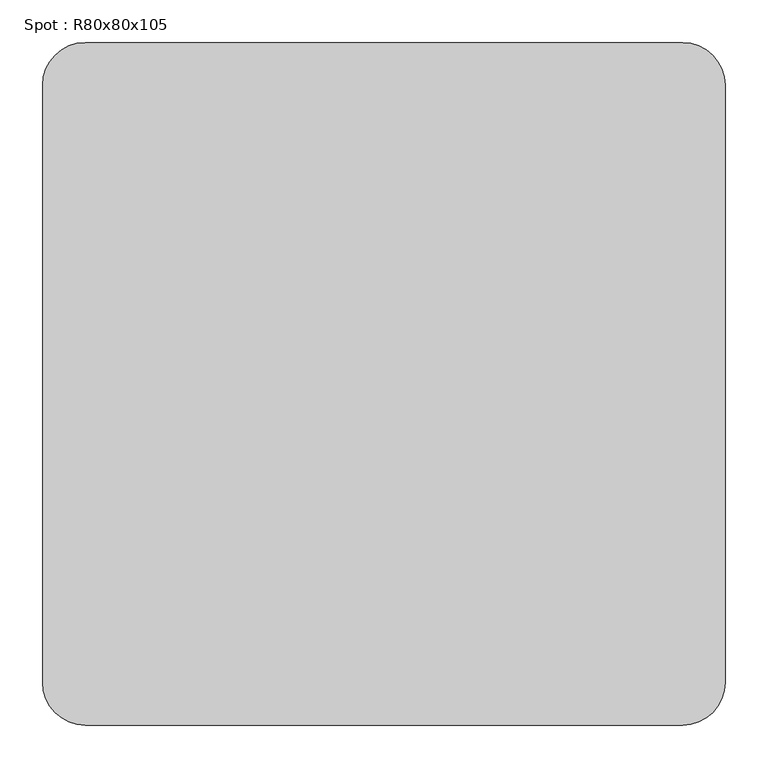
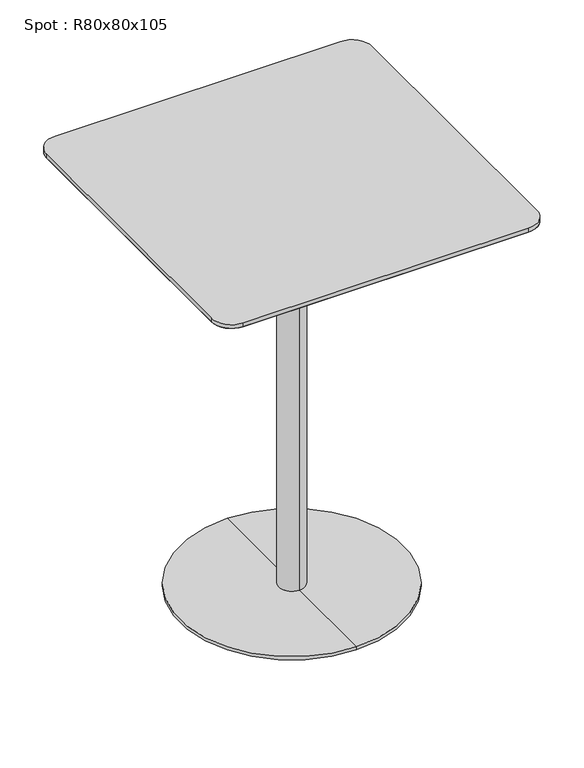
"""IFC4 building model written with IfcOpenShell, lengths in millimetres: furniture geometry, Spot : R80x80x105."""

from ifc_helpers import new_model, si_unit, point, frame, frame_2d, origin, place, context, project, spatial, polyline, circle_curve, trimmed, segment, composite_curve, outline, extrude, source, transform, mapped, element, save
from ifc_brep_helpers import plane_surface, cylinder_surface, revolved_surface, advanced_brep


def spot_r80x80x105_da313f87(model_context):
    return source(origin(), model_context, "Body", "SolidModel", [
        advanced_brep(
        [(-350.0, -350.0, 1028.0), (-350.0, 350.0, 1028.0), (350.0, 350.0, 1028.0), (350.0, -350.0, 1028.0), (-400.0, -350.0, 1040.0), (-350.0, -400.0, 1040.0), (350.0, -400.0, 1040.0), (400.0, -350.0, 1040.0), (400.0, 350.0, 1040.0), (350.0, 400.0, 1040.0), (-350.0, 400.0, 1040.0), (-400.0, 350.0, 1040.0)],
        [
            (0, 1),
            (1, 2),
            (2, 3),
            (3, 0),
            (4, 5, circle_curve(frame((-350.0, -350.0, 1040.0), z_axis=(0.0, 0.0, 1.0), x_axis=(0.0, -1.0, 0.0)), 50.0)),
            (5, 6),
            (6, 7, circle_curve(frame((350.0, -350.0, 1040.0), z_axis=(0.0, 0.0, 1.0), x_axis=(1.0, 0.0, 0.0)), 50.0)),
            (7, 8),
            (8, 9, circle_curve(frame((350.0, 350.0, 1040.0), z_axis=(0.0, 0.0, 1.0), x_axis=(0.0, 1.0, 0.0)), 50.0)),
            (9, 10),
            (10, 11, circle_curve(frame((-350.0, 350.0, 1040.0), z_axis=(0.0, 0.0, 1.0), x_axis=(-1.0, 0.0, 0.0)), 50.0)),
            (11, 4),
            (4, 0),
            (0, 5),
            (3, 6),
            (3, 7),
            (2, 8),
            (2, 9),
            (1, 10),
            (1, 11),
        ],
        [
            plane_surface(frame((0.0, 0.0, 1028.0), z_axis=(0.0, 0.0, -1.0), x_axis=(-1.0, 0.0, 0.0))),
            plane_surface(frame((0.0, 0.0, 1040.0), z_axis=(0.0, 0.0, 1.0), x_axis=(-1.0, 0.0, 0.0))),
            revolved_surface(polyline([(-350.0, -350.0, 1028.0), (-350.0, -400.0, 1040.0)]), (-350.0, -350.0, 1028.0), (0.0, 0.0, 1.0)),
            plane_surface(frame((0.0, -400.0, 1040.0), z_axis=(0.0, -0.23337295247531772, -0.972387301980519), x_axis=(-1.0, 0.0, 0.0))),
            revolved_surface(polyline([(350.0, -350.0, 1028.0), (400.0, -350.0, 1040.0)]), (350.0, -350.0, 1028.0), (0.0, 0.0, 1.0)),
            plane_surface(frame((400.0, 0.0, 1040.0), z_axis=(0.23337295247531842, 0.0, -0.9723873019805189), x_axis=(0.0, -1.0, 0.0))),
            revolved_surface(polyline([(350.0, 350.0, 1028.0), (350.0, 400.0, 1040.0)]), (350.0, 350.0, 1028.0), (0.0, 0.0, 1.0)),
            plane_surface(frame((0.0, 400.0, 1040.0), z_axis=(0.0, 0.23337295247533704, -0.9723873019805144), x_axis=(1.0, 0.0, 0.0))),
            revolved_surface(polyline([(-350.0, 350.0, 1028.0), (-400.0, 350.0, 1040.0)]), (-350.0, 350.0, 1028.0), (0.0, 0.0, 1.0)),
            plane_surface(frame((-400.0, 0.0, 1040.0), z_axis=(-0.2333729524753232, 0.0, -0.9723873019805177), x_axis=(0.0, 1.0, 0.0))),
        ],
        [
            (0, [[1, 2, 3, 4]]),
            (1, [[5, 6, 7, 8, 9, 10, 11, 12]]),
            (2, [[-5, 13, 14]]),
            (3, [[-6, -14, -4, 15]]),
            (4, [[-7, -15, 16]]),
            (5, [[-8, -16, -3, 17]]),
            (6, [[-9, -17, 18]]),
            (7, [[-10, -18, -2, 19]]),
            (8, [[-11, -19, 20]]),
            (9, [[-12, -20, -1, -13]]),
        ],
    ),
        extrude(outline(composite_curve([segment(trimmed(circle_curve(frame_2d((350.0, 350.0)), 50.0), [point((350.0, 400.0))], [point((400.0, 350.0))], False, "CARTESIAN"), True, "CONTINUOUS"), segment(polyline([(400.0, 350.0), (400.0, -350.0)]), True, "CONTINUOUS"), segment(trimmed(circle_curve(frame_2d((350.0, -350.0)), 50.0), [point((400.0, -350.0))], [point((350.0, -400.0))], False, "CARTESIAN"), True, "CONTINUOUS"), segment(polyline([(350.0, -400.0), (-350.0, -400.0)]), True, "CONTINUOUS"), segment(trimmed(circle_curve(frame_2d((-350.0, -350.0)), 50.0), [point((-350.0, -400.0))], [point((-400.0, -350.0))], False, "CARTESIAN"), True, "CONTINUOUS"), segment(polyline([(-400.0, -350.0), (-400.0, 350.0)]), True, "CONTINUOUS"), segment(trimmed(circle_curve(frame_2d((-350.0, 350.0)), 50.0), [point((-400.0, 350.0))], [point((-350.0, 400.0))], False, "CARTESIAN"), True, "CONTINUOUS"), segment(polyline([(-350.0, 400.0), (350.0, 400.0)]), True, "CONTINUOUS")], self_intersect=False)), frame((0.0, 0.0, 1040.0), z_axis=(0.0, 0.0, 1.0), x_axis=(1.0, 0.0, 0.0)), (0.0, 0.0, 1.0), 10.0),
        advanced_brep(
        [(0.0, 32.0, 10.0), (0.0, -32.0, 10.0), (0.0, -32.0, 997.406916), (0.0, 32.0, 997.406916), (0.0, 275.0, 10.0), (0.0, -275.0, 10.0), (0.0, 275.0, 2.0), (0.0, -275.0, 2.0), (0.0, 0.0, 2.0), (0.0, 150.0, 1028.0), (0.0, -150.0, 1028.0), (0.0, 0.0, 1028.0), (0.0, 150.0, 1016.7213673), (0.0, -150.0, 1016.7213673)],
        [
            (0, 1, circle_curve(frame((0.0, 0.0, 10.0), z_axis=(0.0, 0.0, 1.0), x_axis=(0.0, -1.0, 0.0)), 32.0)),
            (1, 2),
            (2, 3, circle_curve(frame((0.0, 0.0, 997.406916), z_axis=(0.0, 0.0, -1.0), x_axis=(0.0, -1.0, 0.0)), 32.0)),
            (3, 0),
            (1, 0, circle_curve(frame((0.0, 0.0, 10.0), z_axis=(0.0, 0.0, 1.0), x_axis=(0.0, -1.0, 0.0)), 32.0)),
            (3, 2, circle_curve(frame((0.0, 0.0, 997.406916), z_axis=(0.0, 0.0, -1.0), x_axis=(0.0, -1.0, 0.0)), 32.0)),
            (4, 5, circle_curve(frame((0.0, 0.0, 10.0), z_axis=(0.0, 0.0, 1.0), x_axis=(0.0, -1.0, 0.0)), 275.0)),
            (5, 1),
            (0, 4),
            (5, 4, circle_curve(frame((0.0, 0.0, 10.0), z_axis=(0.0, 0.0, 1.0), x_axis=(0.0, -1.0, 0.0)), 275.0)),
            (6, 7, circle_curve(frame((0.0, 0.0, 2.0), z_axis=(0.0, 0.0, 1.0), x_axis=(0.0, -1.0, 0.0)), 275.0)),
            (7, 5),
            (4, 6),
            (7, 6, circle_curve(frame((0.0, 0.0, 2.0), z_axis=(0.0, 0.0, 1.0), x_axis=(0.0, -1.0, 0.0)), 275.0)),
            (8, 7),
            (6, 8),
            (9, 10, circle_curve(frame((0.0, 0.0, 1028.0), z_axis=(0.0, 0.0, 1.0), x_axis=(0.0, -1.0, 0.0)), 150.0)),
            (10, 11),
            (11, 9),
            (10, 9, circle_curve(frame((0.0, 0.0, 1028.0), z_axis=(0.0, 0.0, 1.0), x_axis=(0.0, -1.0, 0.0)), 150.0)),
            (12, 13, circle_curve(frame((0.0, 0.0, 1016.7213673), z_axis=(0.0, 0.0, 1.0), x_axis=(0.0, -1.0, 0.0)), 150.0)),
            (13, 10),
            (9, 12),
            (13, 12, circle_curve(frame((0.0, 0.0, 1016.7213673), z_axis=(0.0, 0.0, 1.0), x_axis=(0.0, -1.0, 0.0)), 150.0)),
            (2, 13),
            (12, 3),
        ],
        [
            cylinder_surface(frame((0.0, 0.0, 1390.0), z_axis=(0.0, 0.0, -1.0), x_axis=(0.0, -1.0, 0.0)), 32.0),
            plane_surface(frame((0.0, 0.0, 10.0), z_axis=(0.0, 0.0, 1.0), x_axis=(0.0, -1.0, 0.0))),
            cylinder_surface(frame((0.0, 0.0, 1390.0), z_axis=(0.0, 0.0, -1.0), x_axis=(0.0, -1.0, 0.0)), 275.0),
            plane_surface(frame((0.0, 0.0, 2.0), z_axis=(0.0, 0.0, -1.0), x_axis=(0.0, -1.0, 0.0))),
            plane_surface(frame((0.0, 0.0, 1028.0), z_axis=(0.0, 0.0, 1.0), x_axis=(0.0, -1.0, 0.0))),
            cylinder_surface(frame((0.0, 0.0, 1390.0), z_axis=(0.0, 0.0, -1.0), x_axis=(0.0, -1.0, 0.0)), 150.0),
            revolved_surface(polyline([(0.0, -150.0, 1016.7213673), (0.0, -32.0, 997.406916)]), (0.0, 0.0, 1390.0), (0.0, 0.0, -1.0)),
        ],
        [
            (0, [[1, 2, 3, 4]]),
            (0, [[5, -4, 6, -2]]),
            (1, [[7, 8, -1, 9]]),
            (1, [[10, -9, -5, -8]]),
            (2, [[11, 12, -7, 13]]),
            (2, [[14, -13, -10, -12]]),
            (3, [[15, -11, 16]]),
            (3, [[-16, -14, -15]]),
            (4, [[17, 18, 19]]),
            (4, [[20, -19, -18]]),
            (5, [[21, 22, -17, 23]]),
            (5, [[24, -23, -20, -22]]),
            (6, [[-3, 25, -21, 26]]),
            (6, [[-6, -26, -24, -25]]),
        ],
    ),
    ])


if __name__ == "__main__":
    model = new_model("IFC4")
    model_context = context("Model", 3, world=origin())
    ifc_project = project(units=[si_unit("LENGTHUNIT", "METRE", prefix="MILLI")], contexts=[model_context])
    site = spatial("IfcSite", under=ifc_project)
    building = spatial("IfcBuilding", under=site)
    placement = place(None, origin())
    spot_r80x80x105_shape = spot_r80x80x105_da313f87(model_context)
    element("IfcFurniture", 1, ObjectType="Spot : R80x80x105", at=placement, inside=building, context=model_context, shape_type="MappedRepresentation", body=[
        mapped(spot_r80x80x105_shape, transform((0.0, 0.0, 0.0), x_axis=(1.0, 0.0, 0.0), y_axis=(0.0, 1.0, 0.0), z_axis=(0.0, 0.0, 1.0))),
    ])
    save(model, "model.ifc")
